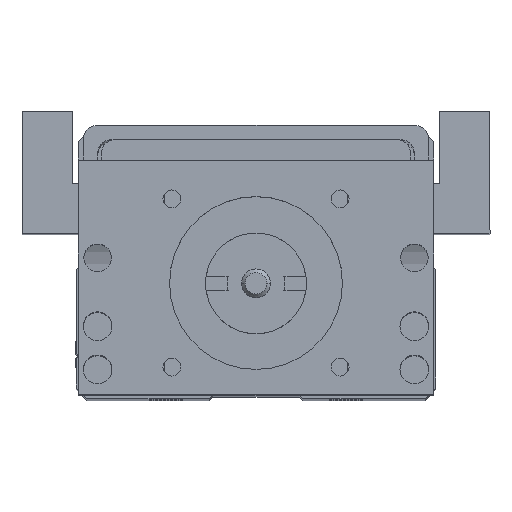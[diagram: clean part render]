
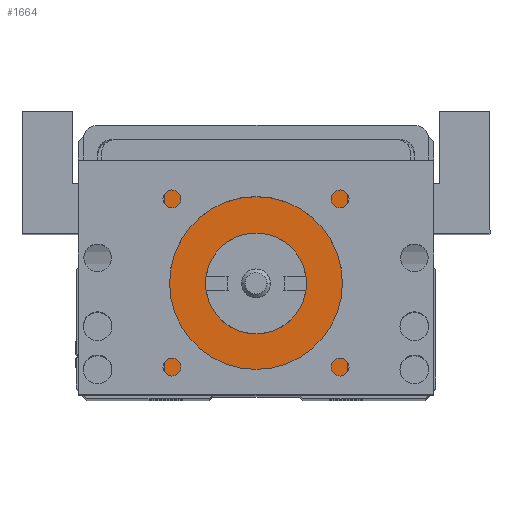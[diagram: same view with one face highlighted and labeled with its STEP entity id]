
A CAD part, top view. The second image highlights one B-rep face of the part: STEP entity #1664.
In plain terms, the highlighted planar face has unit normal (0, 0, 1).
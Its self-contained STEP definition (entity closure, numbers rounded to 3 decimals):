
#1407 = VERTEX_POINT ( 'NONE', #4655 ) ;
#1464 = VERTEX_POINT ( 'NONE', #4750 ) ;
#1471 = EDGE_CURVE ( 'NONE', #1407, #1464, #4731, .T. ) ;
#1597 = EDGE_LOOP ( 'NONE', ( #1741, #1731 ) ) ;
#1664 = ADVANCED_FACE ( 'NONE', ( #5068, #5115 ), #5067, .F. ) ;
#1679 = ORIENTED_EDGE ( 'NONE', *, *, #1732, .T. ) ;
#1731 = ORIENTED_EDGE ( 'NONE', *, *, #1471, .F. ) ;
#1732 = EDGE_CURVE ( 'NONE', #1742, #1744, #5196, .T. ) ;
#1733 = EDGE_CURVE ( 'NONE', #1464, #1407, #5203, .T. ) ;
#1734 = EDGE_LOOP ( 'NONE', ( #1736, #1735, #1737, #1679 ) ) ;
#1735 = ORIENTED_EDGE ( 'NONE', *, *, #1738, .T. ) ;
#1736 = ORIENTED_EDGE ( 'NONE', *, *, #1743, .F. ) ;
#1737 = ORIENTED_EDGE ( 'NONE', *, *, #1740, .T. ) ;
#1738 = EDGE_CURVE ( 'NONE', #1739, #1745, #5243, .T. ) ;
#1739 = VERTEX_POINT ( 'NONE', #5241 ) ;
#1740 = EDGE_CURVE ( 'NONE', #1745, #1742, #5247, .T. ) ;
#1741 = ORIENTED_EDGE ( 'NONE', *, *, #1733, .F. ) ;
#1742 = VERTEX_POINT ( 'NONE', #5238 ) ;
#1743 = EDGE_CURVE ( 'NONE', #1739, #1744, #5235, .T. ) ;
#1744 = VERTEX_POINT ( 'NONE', #5234 ) ;
#1745 = VERTEX_POINT ( 'NONE', #5232 ) ;
#4655 = CARTESIAN_POINT ( 'NONE',  ( 7., 16., 86.5 ) ) ;
#4727 = DIRECTION ( 'NONE',  ( -1., 0., 0. ) ) ;
#4728 = DIRECTION ( 'NONE',  ( 0., 0., 1. ) ) ;
#4729 = CARTESIAN_POINT ( 'NONE',  ( 0., 16., 86.5 ) ) ;
#4730 = AXIS2_PLACEMENT_3D ( 'NONE', #4729, #4728, #4727 ) ;
#4731 = CIRCLE ( 'NONE', #4730, 7. ) ;
#4750 = CARTESIAN_POINT ( 'NONE',  ( -7., 16., 86.5 ) ) ;
#5067 = PLANE ( 'NONE',  #5070 ) ;
#5068 = FACE_OUTER_BOUND ( 'NONE', #1734, .T. ) ;
#5070 = AXIS2_PLACEMENT_3D ( 'NONE', #5114, #5119, #5111 ) ;
#5111 = DIRECTION ( 'NONE',  ( -1., 0., 0. ) ) ;
#5114 = CARTESIAN_POINT ( 'NONE',  ( -14.7, 0., 86.5 ) ) ;
#5115 = FACE_BOUND ( 'NONE', #1597, .T. ) ;
#5119 = DIRECTION ( 'NONE',  ( 0., 0., -1. ) ) ;
#5190 = AXIS2_PLACEMENT_3D ( 'NONE', #5201, #5245, #5244 ) ;
#5196 = LINE ( 'NONE', #5250, #5249 ) ;
#5201 = CARTESIAN_POINT ( 'NONE',  ( 0., 16., 86.5 ) ) ;
#5203 = CIRCLE ( 'NONE', #5190, 7. ) ;
#5217 = VECTOR ( 'NONE', #5240, 1000. ) ;
#5229 = DIRECTION ( 'NONE',  ( -1., 0., 0. ) ) ;
#5230 = VECTOR ( 'NONE', #5229, 1000. ) ;
#5231 = CARTESIAN_POINT ( 'NONE',  ( -6.008, 0.5, 86.5 ) ) ;
#5232 = CARTESIAN_POINT ( 'NONE',  ( 12.7, 33., 86.5 ) ) ;
#5234 = CARTESIAN_POINT ( 'NONE',  ( -12.7, 0.5, 86.5 ) ) ;
#5235 = LINE ( 'NONE', #5231, #5230 ) ;
#5237 = DIRECTION ( 'NONE',  ( -1., 0., 0. ) ) ;
#5238 = CARTESIAN_POINT ( 'NONE',  ( -12.7, 33., 86.5 ) ) ;
#5239 = VECTOR ( 'NONE', #5237, 1000. ) ;
#5240 = DIRECTION ( 'NONE',  ( 0., 1., 0. ) ) ;
#5241 = CARTESIAN_POINT ( 'NONE',  ( 12.7, 0.5, 86.5 ) ) ;
#5242 = CARTESIAN_POINT ( 'NONE',  ( 12.7, 33., 86.5 ) ) ;
#5243 = LINE ( 'NONE', #5242, #5217 ) ;
#5244 = DIRECTION ( 'NONE',  ( -1., 0., 0. ) ) ;
#5245 = DIRECTION ( 'NONE',  ( 0., 0., 1. ) ) ;
#5246 = CARTESIAN_POINT ( 'NONE',  ( -14.7, 33., 86.5 ) ) ;
#5247 = LINE ( 'NONE', #5246, #5239 ) ;
#5248 = DIRECTION ( 'NONE',  ( 0., -1., 0. ) ) ;
#5249 = VECTOR ( 'NONE', #5248, 1000. ) ;
#5250 = CARTESIAN_POINT ( 'NONE',  ( -12.7, 0.5, 86.5 ) ) ;
